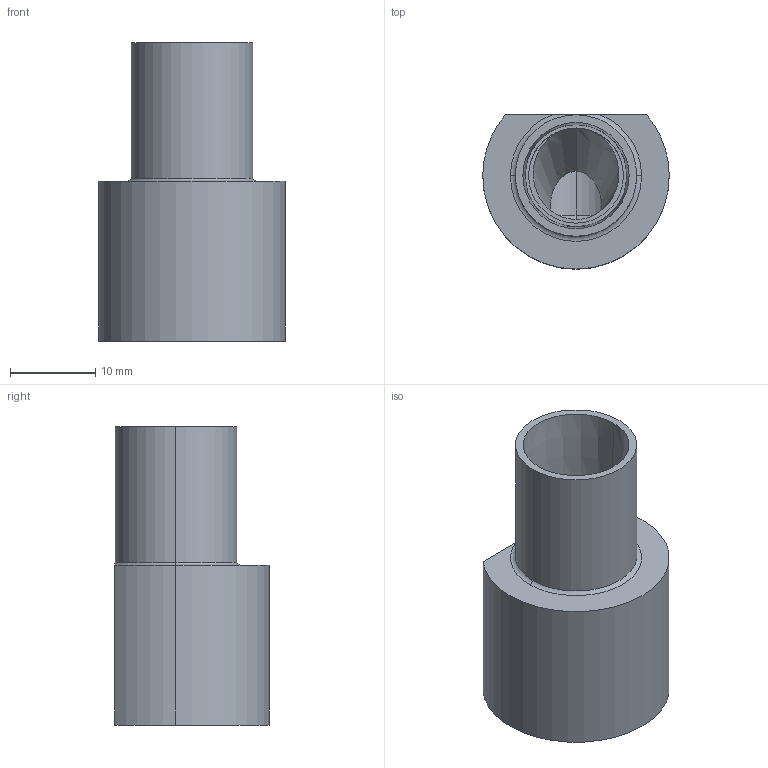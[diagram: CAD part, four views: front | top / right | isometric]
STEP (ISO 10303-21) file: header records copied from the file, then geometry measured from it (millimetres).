
FILE_DESCRIPTION (( 'STEP AP203' ), '1' );
FILE_NAME ('HK1814.step', '2020-08-19T05:58:59', ( 'Microsoft Corporation' ), ( 'MS' ), 'SwSTEP 2.0', 'SolidWorks 2018', '' );
FILE_SCHEMA (( 'CONFIG_CONTROL_DESIGN' ));
Length unit declared in the file: inch
Products named in the file (1): HK1814
Bounding box: 21.84 x 18.07 x 34.92 mm (x, y, z)
Volume: 6053.9 mm3; surface area: 3585.9 mm2
Topology: 1 solids, 1 shells, 39 faces, 100 edges, 64 vertices
Faces by surface type: plane 15, cone 11, cylinder 11, torus 2
Entity records: 1391 total; most frequent: CARTESIAN_POINT 375, DIRECTION 197, ORIENTED_EDGE 196, EDGE_CURVE 98, AXIS2_PLACEMENT_3D 79, VERTEX_POINT 64, EDGE_LOOP 44, CIRCLE 39
